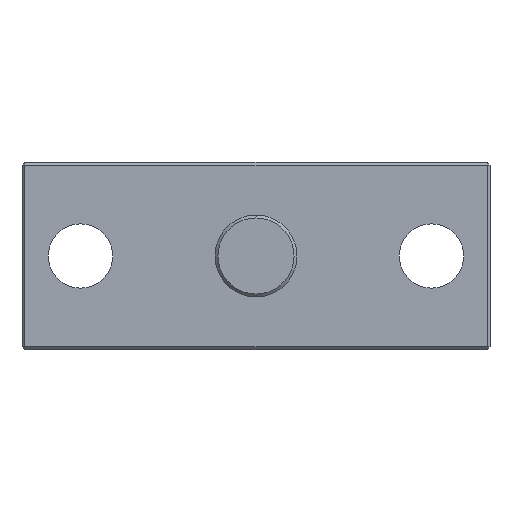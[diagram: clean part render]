
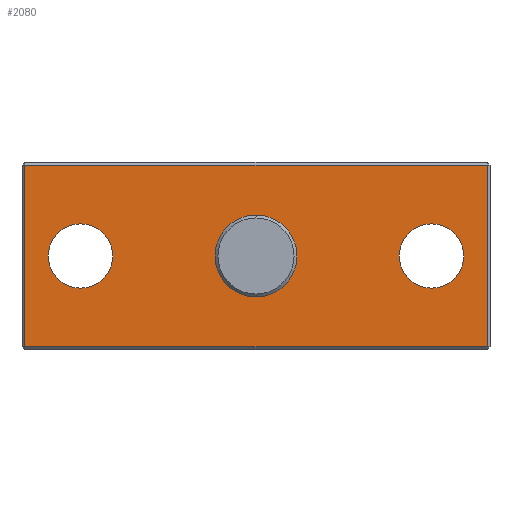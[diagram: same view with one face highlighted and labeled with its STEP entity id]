
A CAD part, left-side view. The second image highlights one B-rep face of the part: STEP entity #2080.
In plain terms, the highlighted planar face has unit normal (-1, 0, 0).
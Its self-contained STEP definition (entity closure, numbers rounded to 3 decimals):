
#9 = EDGE_LOOP ( 'NONE', ( #1322, #1582 ) ) ;
#12 = VERTEX_POINT ( 'NONE', #1796 ) ;
#16 = VERTEX_POINT ( 'NONE', #66 ) ;
#44 = DIRECTION ( 'NONE',  ( 0., 0., -1. ) ) ;
#60 = CARTESIAN_POINT ( 'NONE',  ( -6., -39.5, -15.5 ) ) ;
#63 = VERTEX_POINT ( 'NONE', #1637 ) ;
#66 = CARTESIAN_POINT ( 'NONE',  ( -6., 0., -7. ) ) ;
#154 = EDGE_CURVE ( 'NONE', #2207, #667, #2106, .T. ) ;
#193 = EDGE_CURVE ( 'NONE', #1903, #2014, #1272, .T. ) ;
#281 = ORIENTED_EDGE ( 'NONE', *, *, #1707, .T. ) ;
#287 = VECTOR ( 'NONE', #1561, 1000. ) ;
#293 = EDGE_CURVE ( 'NONE', #2014, #1867, #1864, .T. ) ;
#411 = EDGE_CURVE ( 'NONE', #12, #16, #1488, .T. ) ;
#449 = DIRECTION ( 'NONE',  ( 1., 0., 0. ) ) ;
#477 = ORIENTED_EDGE ( 'NONE', *, *, #193, .T. ) ;
#489 = EDGE_CURVE ( 'NONE', #1867, #2171, #1819, .T. ) ;
#491 = CARTESIAN_POINT ( 'NONE',  ( -6., 0., 15.5 ) ) ;
#530 = DIRECTION ( 'NONE',  ( 0., 0., -1. ) ) ;
#540 = CARTESIAN_POINT ( 'NONE',  ( -6., 39.5, 0. ) ) ;
#558 = FACE_BOUND ( 'NONE', #1100, .T. ) ;
#571 = DIRECTION ( 'NONE',  ( 1., 0., 0. ) ) ;
#577 = DIRECTION ( 'NONE',  ( 0., 0., -1. ) ) ;
#667 = VERTEX_POINT ( 'NONE', #1953 ) ;
#688 = DIRECTION ( 'NONE',  ( 1., 0., 0. ) ) ;
#740 = DIRECTION ( 'NONE',  ( 0., 0., 1. ) ) ;
#765 = DIRECTION ( 'NONE',  ( 0., 0., -1. ) ) ;
#772 = DIRECTION ( 'NONE',  ( 1., 0., 0. ) ) ;
#801 = ORIENTED_EDGE ( 'NONE', *, *, #154, .T. ) ;
#821 = CARTESIAN_POINT ( 'NONE',  ( -6., 0., -15.5 ) ) ;
#860 = DIRECTION ( 'NONE',  ( 1., 0., 0. ) ) ;
#880 = ORIENTED_EDGE ( 'NONE', *, *, #489, .T. ) ;
#1002 = CARTESIAN_POINT ( 'NONE',  ( -6., 30., -5.5 ) ) ;
#1034 = VECTOR ( 'NONE', #577, 1000. ) ;
#1036 = VECTOR ( 'NONE', #1182, 1000. ) ;
#1037 = FACE_OUTER_BOUND ( 'NONE', #1652, .T. ) ;
#1100 = EDGE_LOOP ( 'NONE', ( #801, #2402 ) ) ;
#1111 = EDGE_LOOP ( 'NONE', ( #1927, #1157 ) ) ;
#1117 = FACE_BOUND ( 'NONE', #9, .T. ) ;
#1150 = ORIENTED_EDGE ( 'NONE', *, *, #293, .T. ) ;
#1157 = ORIENTED_EDGE ( 'NONE', *, *, #1410, .T. ) ;
#1166 = CARTESIAN_POINT ( 'NONE',  ( -6., -39.5, 15.5 ) ) ;
#1182 = DIRECTION ( 'NONE',  ( 0., -1., 0. ) ) ;
#1236 = EDGE_CURVE ( 'NONE', #667, #2207, #2018, .T. ) ;
#1259 = AXIS2_PLACEMENT_3D ( 'NONE', #1330, #449, #765 ) ;
#1262 = CIRCLE ( 'NONE', #1776, 7. ) ;
#1269 = DIRECTION ( 'NONE',  ( 1., 0., 0. ) ) ;
#1272 = LINE ( 'NONE', #540, #1034 ) ;
#1303 = CIRCLE ( 'NONE', #2426, 5.5 ) ;
#1322 = ORIENTED_EDGE ( 'NONE', *, *, #1596, .T. ) ;
#1330 = CARTESIAN_POINT ( 'NONE',  ( -6., 0., 0. ) ) ;
#1351 = AXIS2_PLACEMENT_3D ( 'NONE', #1950, #772, #1450 ) ;
#1410 = EDGE_CURVE ( 'NONE', #1939, #63, #1954, .T. ) ;
#1450 = DIRECTION ( 'NONE',  ( 0., 0., -1. ) ) ;
#1456 = CARTESIAN_POINT ( 'NONE',  ( -6., -30., 0. ) ) ;
#1488 = CIRCLE ( 'NONE', #1832, 7. ) ;
#1523 = AXIS2_PLACEMENT_3D ( 'NONE', #1456, #688, #530 ) ;
#1561 = DIRECTION ( 'NONE',  ( 0., 1., 0. ) ) ;
#1582 = ORIENTED_EDGE ( 'NONE', *, *, #411, .T. ) ;
#1596 = EDGE_CURVE ( 'NONE', #16, #12, #1262, .T. ) ;
#1604 = LINE ( 'NONE', #491, #287 ) ;
#1627 = AXIS2_PLACEMENT_3D ( 'NONE', #2118, #1269, #1734 ) ;
#1636 = FACE_BOUND ( 'NONE', #1111, .T. ) ;
#1637 = CARTESIAN_POINT ( 'NONE',  ( -6., -30., -5.5 ) ) ;
#1652 = EDGE_LOOP ( 'NONE', ( #1150, #880, #281, #477 ) ) ;
#1707 = EDGE_CURVE ( 'NONE', #2171, #1903, #1604, .T. ) ;
#1710 = PLANE ( 'NONE',  #1259 ) ;
#1732 = DIRECTION ( 'NONE',  ( 0., 0., -1. ) ) ;
#1734 = DIRECTION ( 'NONE',  ( 0., 0., -1. ) ) ;
#1771 = EDGE_CURVE ( 'NONE', #63, #1939, #1303, .T. ) ;
#1776 = AXIS2_PLACEMENT_3D ( 'NONE', #2269, #860, #44 ) ;
#1780 = CARTESIAN_POINT ( 'NONE',  ( -6., -30., 0. ) ) ;
#1796 = CARTESIAN_POINT ( 'NONE',  ( -6., 0., 7. ) ) ;
#1819 = LINE ( 'NONE', #2044, #1994 ) ;
#1832 = AXIS2_PLACEMENT_3D ( 'NONE', #1923, #2079, #2267 ) ;
#1864 = LINE ( 'NONE', #821, #1036 ) ;
#1867 = VERTEX_POINT ( 'NONE', #60 ) ;
#1903 = VERTEX_POINT ( 'NONE', #2337 ) ;
#1923 = CARTESIAN_POINT ( 'NONE',  ( -6., 0., 0. ) ) ;
#1927 = ORIENTED_EDGE ( 'NONE', *, *, #1771, .T. ) ;
#1939 = VERTEX_POINT ( 'NONE', #2123 ) ;
#1950 = CARTESIAN_POINT ( 'NONE',  ( -6., 30., 0. ) ) ;
#1953 = CARTESIAN_POINT ( 'NONE',  ( -6., 30., 5.5 ) ) ;
#1954 = CIRCLE ( 'NONE', #1523, 5.5 ) ;
#1994 = VECTOR ( 'NONE', #740, 1000. ) ;
#2014 = VERTEX_POINT ( 'NONE', #2213 ) ;
#2018 = CIRCLE ( 'NONE', #1351, 5.5 ) ;
#2044 = CARTESIAN_POINT ( 'NONE',  ( -6., -39.5, 0. ) ) ;
#2079 = DIRECTION ( 'NONE',  ( 1., 0., 0. ) ) ;
#2080 = ADVANCED_FACE ( 'NONE', ( #1037, #1117, #1636, #558 ), #1710, .F. ) ;
#2106 = CIRCLE ( 'NONE', #1627, 5.5 ) ;
#2118 = CARTESIAN_POINT ( 'NONE',  ( -6., 30., 0. ) ) ;
#2123 = CARTESIAN_POINT ( 'NONE',  ( -6., -30., 5.5 ) ) ;
#2171 = VERTEX_POINT ( 'NONE', #1166 ) ;
#2207 = VERTEX_POINT ( 'NONE', #1002 ) ;
#2213 = CARTESIAN_POINT ( 'NONE',  ( -6., 39.5, -15.5 ) ) ;
#2267 = DIRECTION ( 'NONE',  ( 0., 0., -1. ) ) ;
#2269 = CARTESIAN_POINT ( 'NONE',  ( -6., 0., 0. ) ) ;
#2337 = CARTESIAN_POINT ( 'NONE',  ( -6., 39.5, 15.5 ) ) ;
#2402 = ORIENTED_EDGE ( 'NONE', *, *, #1236, .T. ) ;
#2426 = AXIS2_PLACEMENT_3D ( 'NONE', #1780, #571, #1732 ) ;
